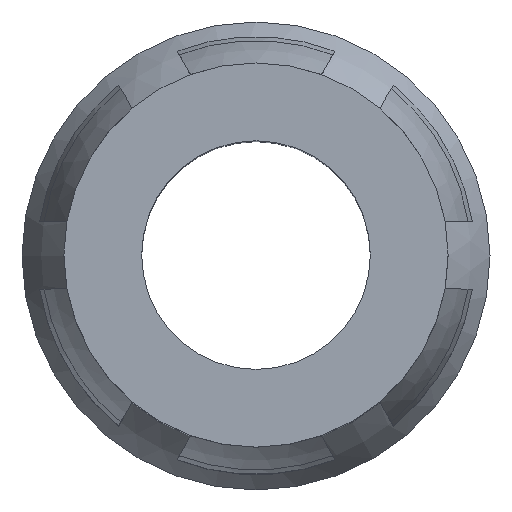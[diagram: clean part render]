
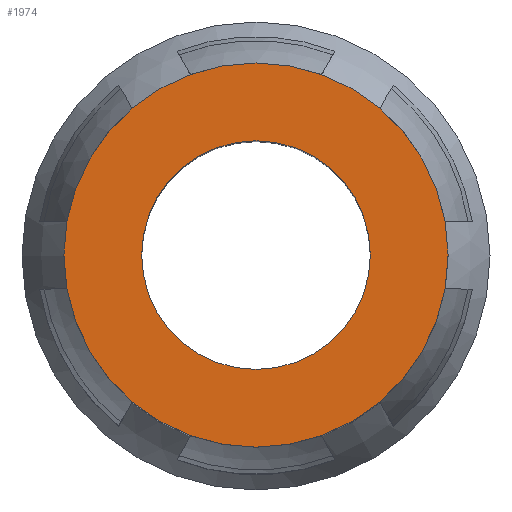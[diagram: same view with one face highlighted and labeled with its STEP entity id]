
A CAD part, top view. The second image highlights one B-rep face of the part: STEP entity #1974.
In plain terms, the highlighted planar face has unit normal (0, 0, 1).
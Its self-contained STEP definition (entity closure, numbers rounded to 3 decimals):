
#3 = CIRCLE ( 'NONE', #1680, 1.353 ) ;
#4 = AXIS2_PLACEMENT_3D ( 'NONE', #890, #400, #563 ) ;
#104 = DIRECTION ( 'NONE',  ( -1., 0., 0. ) ) ;
#118 = CARTESIAN_POINT ( 'NONE',  ( 9.23, 0., -12.828 ) ) ;
#289 = CARTESIAN_POINT ( 'NONE',  ( 7.878, 0., -12.828 ) ) ;
#400 = DIRECTION ( 'NONE',  ( 0., 0., -1. ) ) ;
#449 = FACE_OUTER_BOUND ( 'NONE', #895, .T. ) ;
#563 = DIRECTION ( 'NONE',  ( -1., 0., 0. ) ) ;
#647 = EDGE_CURVE ( 'NONE', #765, #765, #3, .T. ) ;
#765 = VERTEX_POINT ( 'NONE', #289 ) ;
#890 = CARTESIAN_POINT ( 'NONE',  ( 11.503, 0., -12.828 ) ) ;
#895 = EDGE_LOOP ( 'NONE', ( #900 ) ) ;
#900 = ORIENTED_EDGE ( 'NONE', *, *, #1548, .F. ) ;
#902 = FACE_BOUND ( 'NONE', #1756, .T. ) ;
#940 = DIRECTION ( 'NONE',  ( -1., 0., 0. ) ) ;
#1224 = AXIS2_PLACEMENT_3D ( 'NONE', #118, #1650, #104 ) ;
#1478 = CARTESIAN_POINT ( 'NONE',  ( 9.23, 0., -12.828 ) ) ;
#1514 = DIRECTION ( 'NONE',  ( 0., 0., -1. ) ) ;
#1548 = EDGE_CURVE ( 'NONE', #1639, #1639, #1886, .T. ) ;
#1588 = ORIENTED_EDGE ( 'NONE', *, *, #647, .T. ) ;
#1639 = VERTEX_POINT ( 'NONE', #2201 ) ;
#1650 = DIRECTION ( 'NONE',  ( 0., 0., -1. ) ) ;
#1680 = AXIS2_PLACEMENT_3D ( 'NONE', #1478, #1514, #940 ) ;
#1756 = EDGE_LOOP ( 'NONE', ( #1588 ) ) ;
#1757 = PLANE ( 'NONE',  #4 ) ;
#1886 = CIRCLE ( 'NONE', #1224, 2.273 ) ;
#1974 = ADVANCED_FACE ( 'NONE', ( #902, #449 ), #1757, .F. ) ;
#2201 = CARTESIAN_POINT ( 'NONE',  ( 6.958, 0., -12.828 ) ) ;
